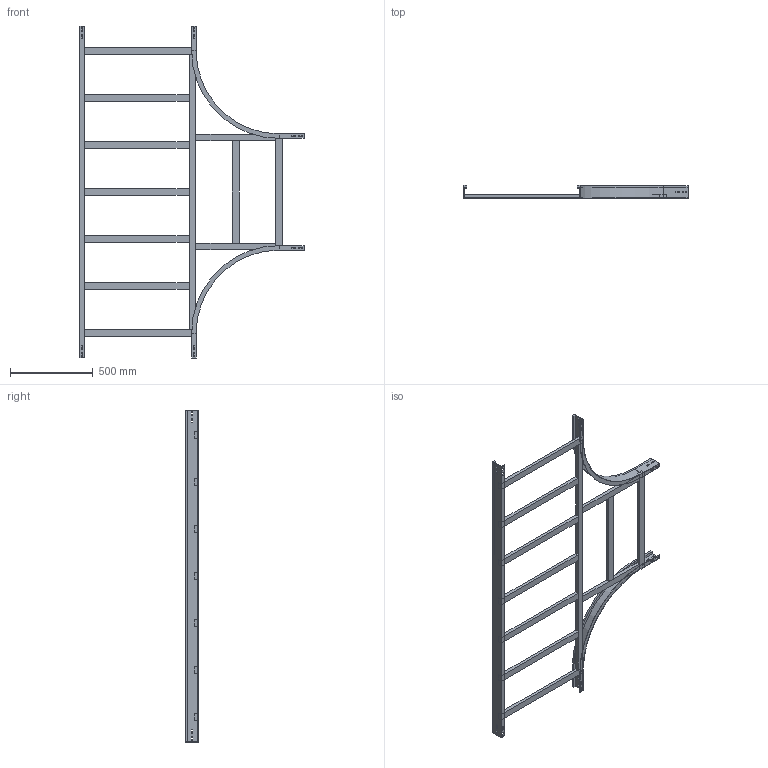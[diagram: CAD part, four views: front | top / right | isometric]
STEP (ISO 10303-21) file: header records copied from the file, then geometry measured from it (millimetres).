
FILE_DESCRIPTION (( 'STEP AP214' ), '1' );
FILE_NAME ('15B5C700.step', '2025-02-21T15:52:47', ( '' ), ( '' ), 'SwSTEP 2.0', 'SolidWorks 2023', '' );
FILE_SCHEMA (( 'AUTOMOTIVE_DESIGN' ));
Length unit declared in the file: millimetre
Products named in the file (8): TRAVERSINO_INTERMEDIO_R500+700; 15B5C700; LONGH.RETT_H75_R500+700; TRAVERSINO_LONG._R500+700; TRAVERSINO_700; TRAVERSINO_VERT_R500; TRAVERSINO_COPPIA_700; LONGH.INTERNO 90°_H75_R500
Assembly tree (15 placements, depth 2):
  15B5C700
    LONGH.INTERNO 90°_H75_R500  x2
    LONGH.RETT_H75_R500+700
    TRAVERSINO_700  x3
    TRAVERSINO_LONG._R500+700
    TRAVERSINO_INTERMEDIO_R500+700  x5
    TRAVERSINO_VERT_R500  x2
    TRAVERSINO_COPPIA_700
Bounding box: 1350 x 75 x 2000 mm (x, y, z)
Volume: 8605175.9 mm3; surface area: 2047042.5 mm2
Topology: 15 solids, 15 shells, 230 faces, 568 edges, 368 vertices
Faces by surface type: plane 222, cylinder 8
Entity records: 4217 total; most frequent: CARTESIAN_POINT 696, ORIENTED_EDGE 664, DIRECTION 636, EDGE_CURVE 332, VECTOR 324, LINE 324, VERTEX_POINT 216, EDGE_LOOP 162
